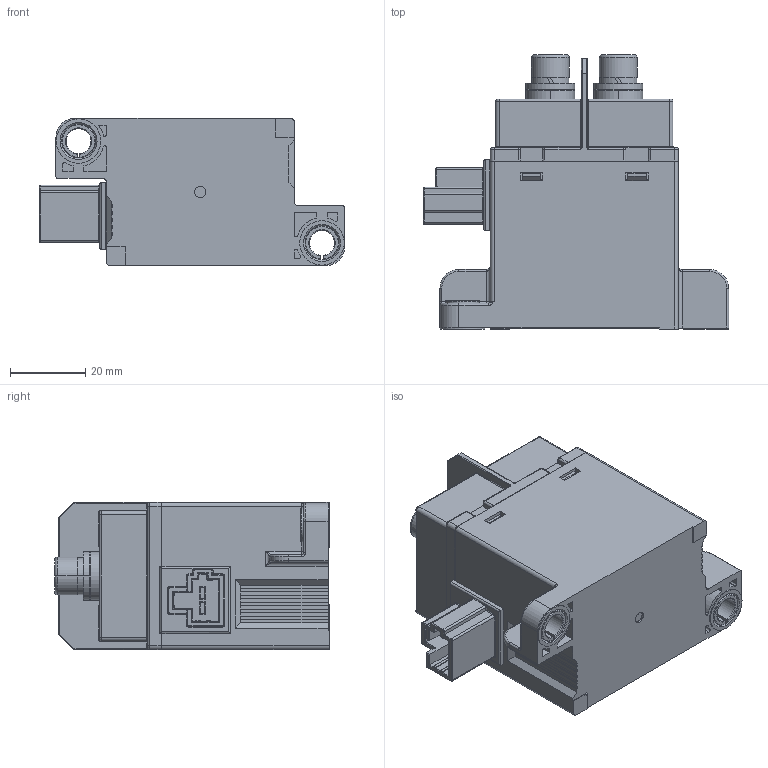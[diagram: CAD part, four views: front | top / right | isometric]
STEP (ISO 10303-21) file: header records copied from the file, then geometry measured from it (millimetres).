
FILE_DESCRIPTION (( 'STEP AP203' ), '1' );
FILE_NAME ('NDZ3AT-150BÍâÐÍ3DÍ¼.STEP', '2020-04-01T01:47:51', ( '' ), ( '' ), 'SwSTEP 2.0', 'SolidWorks 2018', '' );
FILE_SCHEMA (( 'CONFIG_CONTROL_DESIGN' ));
Length unit declared in the file: millimetre
Products named in the file (12): 8LD.950.1045; 5LD.004.0003; 8LD.144.1004; 5LD.850.1049; 8LD.005.0039; hexagon socket head cap screws gb_GB_FASTENER_SCREWS_HSHCS M6X12-C; spring lock washers--normal type gb_GB_FASTENER_WASHER_SW 6; 8LD.553.0002; 5LD.558.0011; 8LD.005.0041; NDZ3AT-150B俋倰3D芞; 8LD.064.0003
Assembly tree (14 placements, depth 4):
  NDZ3AT-150B俋倰3D芞
    5LD.558.0011
      5LD.004.0003
        8LD.553.0002  x2
    8LD.005.0041
    8LD.005.0039
    8LD.064.0003
    8LD.144.1004  x2
    5LD.850.1049  x2
      hexagon socket head cap screws gb_GB_FASTENER_SCREWS_HSHCS M6X12-C
      spring lock washers--normal type gb_GB_FASTENER_WASHER_SW 6
      8LD.950.1045
Bounding box: 80.9 x 72.7 x 39 mm (x, y, z)
Volume: 33645.2 mm3; surface area: 39798.7 mm2
Topology: 13 solids, 13 shells, 1222 faces, 3033 edges, 1830 vertices
Faces by surface type: plane 592, cylinder 428, torus 123, sphere 33, cone 23, bspline 23
Entity records: 35739 total; most frequent: CARTESIAN_POINT 7646, ORIENTED_EDGE 5618, DIRECTION 5567, EDGE_CURVE 2809, LINE 1897, VECTOR 1897, AXIS2_PLACEMENT_3D 1835, VERTEX_POINT 1718
